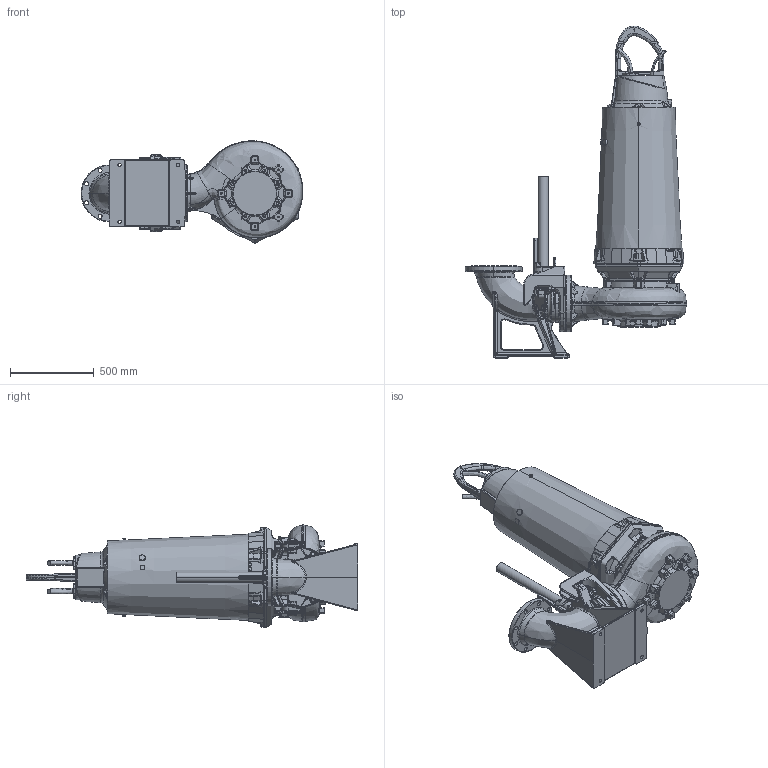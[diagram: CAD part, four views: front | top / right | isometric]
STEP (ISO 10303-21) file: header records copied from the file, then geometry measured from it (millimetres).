
FILE_DESCRIPTION (( 'STEP AP214' ), '1' );
FILE_NAME ('PE5_XFP200J-CH2_WET_A_NG2.STEP', '2017-03-15T07:54:46', ( '' ), ( '' ), 'SwSTEP 2.0', 'SolidWorks 2017', '' );
FILE_SCHEMA (( 'AUTOMOTIVE_DESIGN' ));
Length unit declared in the file: millimetre
Products named in the file (1): PE5_XFP200J-CH2_WET_A_NG2
Bounding box: 1325.82 x 1985.68 x 611.69 mm (x, y, z)
Volume: 304630618.5 mm3; surface area: 5455924.4 mm2
Topology: 4 solids, 11 shells, 4354 faces, 10754 edges, 6259 vertices
Faces by surface type: bspline 1564, cylinder 1033, plane 823, torus 422, cone 380, sphere 132
Entity records: 279671 total; most frequent: CARTESIAN_POINT 142493, ORIENTED_EDGE 21022, DIRECTION 15819, EDGE_CURVE 10511, AXIS2_PLACEMENT_3D 6467, VERTEX_POINT 6251, EDGE_LOOP 4500, UNCERTAINTY_MEASURE_WITH_UNIT 4360
